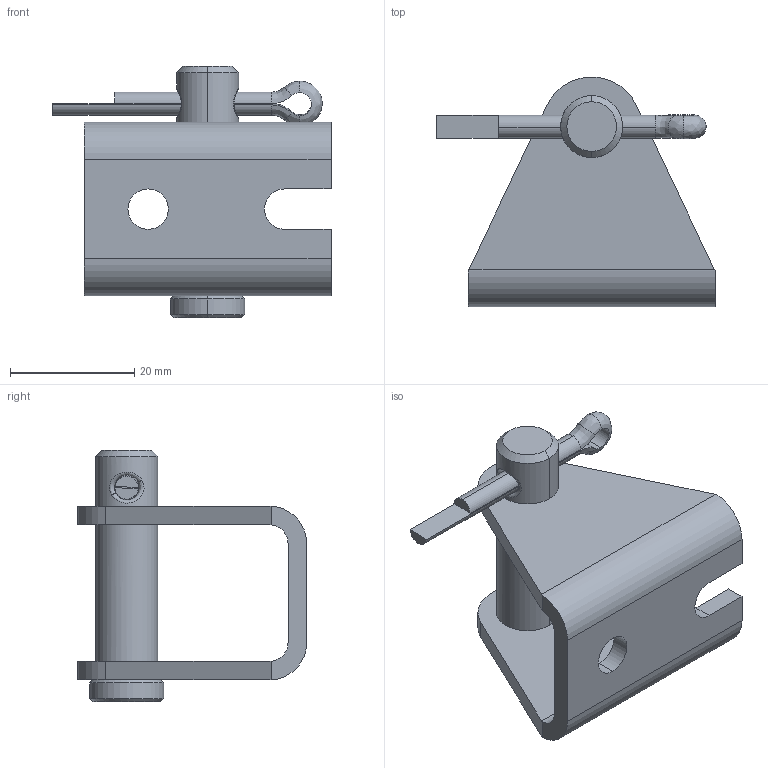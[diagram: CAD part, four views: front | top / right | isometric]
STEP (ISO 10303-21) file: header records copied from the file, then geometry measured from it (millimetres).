
FILE_DESCRIPTION((''),' ');
FILE_NAME('dszy4-h02.stp',' ',('MSW'),('MSW'),' ','ACIS 14.0',' ');
FILE_SCHEMA(('automotive_design'));
Length unit declared in the file: inch
Products named in the file (3): DSZY4-H02
Bounding box: 44.85 x 36.97 x 40.5 mm (x, y, z)
Volume: 10944.7 mm3; surface area: 8183 mm2
Topology: 3 solids, 3 shells, 65 faces, 156 edges, 98 vertices
Faces by surface type: cylinder 28, plane 22, bspline 9, cone 6
Entity records: 3138 total; most frequent: CARTESIAN_POINT 1045, DIRECTION 320, ORIENTED_EDGE 312, EDGE_CURVE 156, AXIS2_PLACEMENT_3D 125, VERTEX_POINT 98, EDGE_LOOP 74, LINE 70
